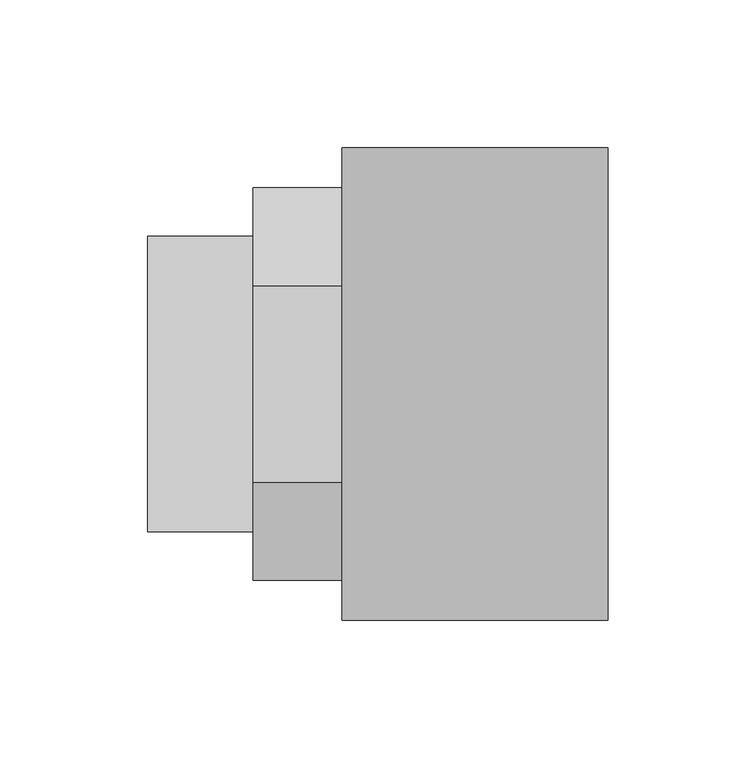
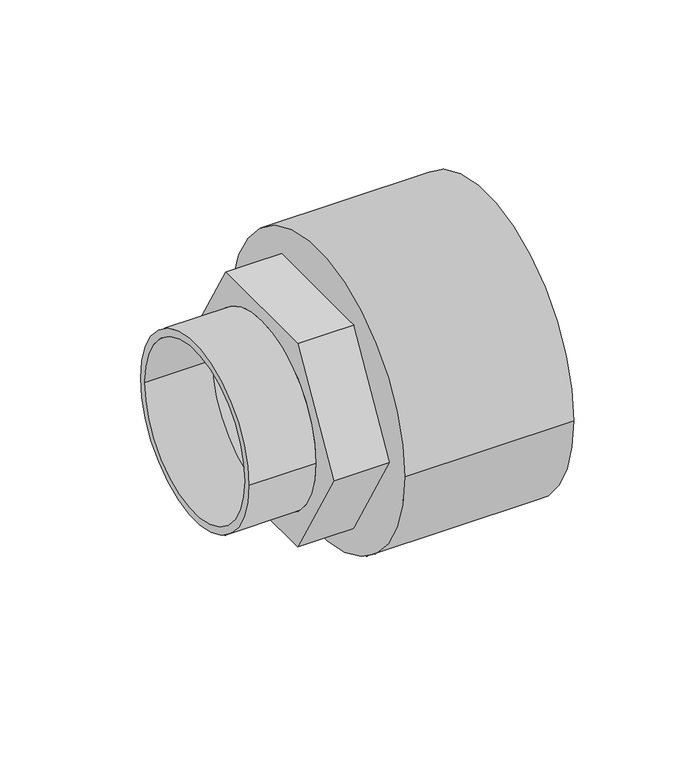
"""IFC4 building model written with IfcOpenShell, lengths in millimetres: pipe fitting geometry, NIRON RED termofusion roscado enlace rosca macho hexagonal : Estándar."""

from ifc_helpers import new_model, si_unit, point, frame, origin, origin_2d, place, context, project, spatial, polyline, circle_curve, trimmed, segment, composite_curve, outline, extrude, source, transform, mapped, element, save
from ifc_brep_helpers import plane_surface, revolved_surface, advanced_brep


def pipe_fitting_4a39e732(model_context):
    return source(origin(), model_context, "Body", "SolidModel", [
        extrude(outline(composite_curve([segment(trimmed(circle_curve(origin_2d(), 50.0), [point((-50.0, 0.0))], [point((50.0, 0.0))], False, "CARTESIAN"), True, "CONTINUOUS"), segment(trimmed(circle_curve(origin_2d(), 50.0), [point((50.0, 0.0))], [point((-50.0, 0.0))], False, "CARTESIAN"), True, "CONTINUOUS")], self_intersect=False), holes=[composite_curve([segment(trimmed(circle_curve(origin_2d(), 46.0), [point((-46.0, 0.0))], [point((46.0, 0.0))], True, "CARTESIAN"), True, "CONTINUOUS"), segment(trimmed(circle_curve(origin_2d(), 46.0), [point((46.0, 0.0))], [point((-46.0, 0.0))], True, "CARTESIAN"), True, "CONTINUOUS")], self_intersect=False)]), frame((-35.8, 0.0, 0.0), z_axis=(1.0, 0.0, 0.0), x_axis=(0.0, 1.0, 0.0)), (0.0, 0.0, 1.0), 35.8),
        extrude(outline(composite_curve([segment(trimmed(circle_curve(origin_2d(), 80.0), [point((80.0, 0.0))], [point((-80.0, 0.0))], False, "CARTESIAN"), True, "CONTINUOUS"), segment(trimmed(circle_curve(origin_2d(), 80.0), [point((-80.0, 0.0))], [point((80.0, 0.0))], False, "CARTESIAN"), True, "CONTINUOUS")], self_intersect=False)), frame((30.0, 0.0, 0.0), z_axis=(1.0, 0.0, 0.0), x_axis=(0.0, 1.0, 0.0)), (0.0, 0.0, 1.0), 90.2),
        advanced_brep(
        [(45.0, -33.1976405, -57.5), (45.0, 33.1976405, -57.5), (45.0, 66.395281, 0.0), (45.0, 33.1976405, 57.5), (45.0, -33.1976405, 57.5), (45.0, -66.395281, 0.0), (0.0, -33.1976405, -57.5), (0.0, -66.395281, 0.0), (0.0, -33.1976405, 57.5), (0.0, 33.1976405, 57.5), (0.0, 66.395281, 0.0), (0.0, 33.1976405, -57.5), (0.0, -50.0, 0.0), (0.0, 50.0, 0.0), (23.7, 50.0, 0.0), (23.7, -50.0, 0.0)],
        [
            (0, 1),
            (1, 2),
            (2, 3),
            (3, 4),
            (4, 5),
            (5, 0),
            (6, 7),
            (7, 8),
            (8, 9),
            (9, 10),
            (10, 11),
            (11, 6),
            (12, 13, circle_curve(frame((0.0, 0.0, 0.0), z_axis=(1.0, 0.0, 0.0), x_axis=(0.0, -1.0, 0.0)), 50.0)),
            (13, 12, circle_curve(frame((0.0, 0.0, 0.0), z_axis=(1.0, 0.0, 0.0), x_axis=(0.0, -1.0, 0.0)), 50.0)),
            (0, 6),
            (11, 1),
            (10, 2),
            (9, 3),
            (8, 4),
            (7, 5),
            (14, 15, circle_curve(frame((23.7, 0.0, 0.0), z_axis=(-1.0, 0.0, 0.0), x_axis=(0.0, -1.0, 0.0)), 50.0)),
            (15, 14, circle_curve(frame((23.7, 0.0, 0.0), z_axis=(-1.0, 0.0, 0.0), x_axis=(0.0, -1.0, 0.0)), 50.0)),
            (14, 13),
            (12, 15),
        ],
        [
            plane_surface(frame((45.0, 0.0, 0.0), z_axis=(1.0, 0.0, 0.0), x_axis=(0.0, 0.0, 1.0))),
            plane_surface(frame((0.0, 0.0, 0.0), z_axis=(-1.0, 0.0, 0.0), x_axis=(0.0, 0.0, 1.0))),
            plane_surface(frame((45.0, -33.1976405, -57.5), z_axis=(0.0, 0.0, -1.0), x_axis=(-1.0, 0.0, 0.0))),
            plane_surface(frame((45.0, 33.1976405, -57.5), z_axis=(0.0, 0.8660254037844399, -0.4999999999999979), x_axis=(-1.0, 0.0, 0.0))),
            plane_surface(frame((45.0, 66.395281, 0.0), z_axis=(0.0, 0.866025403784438, 0.500000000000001), x_axis=(-1.0, 0.0, 0.0))),
            plane_surface(frame((45.0, 33.1976405, 57.5), z_axis=(0.0, 0.0, 1.0), x_axis=(-1.0, 0.0, 0.0))),
            plane_surface(frame((45.0, -33.1976405, 57.5), z_axis=(0.0, -0.8660254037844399, 0.4999999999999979), x_axis=(-1.0, 0.0, 0.0))),
            plane_surface(frame((45.0, -66.395281, 0.0), z_axis=(0.0, -0.8660254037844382, -0.500000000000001), x_axis=(-1.0, 0.0, 0.0))),
            plane_surface(frame((23.7, -50.0, 0.0), z_axis=(-1.0, 0.0, 0.0), x_axis=(0.0, 0.0, -1.0))),
            revolved_surface(polyline([(0.0, -50.0, 0.0), (23.7, -50.0, 0.0)]), (23.7, 0.0, 0.0), (-1.0, 0.0, 0.0)),
        ],
        [
            (0, [[1, 2, 3, 4, 5, 6]]),
            (1, [[7, 8, 9, 10, 11, 12], [13, 14]]),
            (2, [[-1, 15, -12, 16]]),
            (3, [[-2, -16, -11, 17]]),
            (4, [[-3, -17, -10, 18]]),
            (5, [[-4, -18, -9, 19]]),
            (6, [[-5, -19, -8, 20]]),
            (7, [[-6, -20, -7, -15]]),
            (8, [[21, 22]]),
            (9, [[-21, 23, -13, 24]]),
            (9, [[-22, -24, -14, -23]]),
        ],
    ),
    ])


if __name__ == "__main__":
    model = new_model("IFC4")
    model_context = context("Model", 3, world=origin())
    ifc_project = project(units=[si_unit("LENGTHUNIT", "METRE", prefix="MILLI")], contexts=[model_context])
    site = spatial("IfcSite", under=ifc_project)
    building = spatial("IfcBuilding", under=site)
    placement = place(None, origin())
    pipe_fitting_shape = pipe_fitting_4a39e732(model_context)
    element("IfcPipeFitting", 1, ObjectType="NIRON RED termofusion roscado enlace rosca macho hexagonal : Estándar", at=placement, inside=building, context=model_context, shape_type="MappedRepresentation", body=[
        mapped(pipe_fitting_shape, transform((0.0, 0.0, 0.0), x_axis=(1.0, 0.0, 0.0), y_axis=(0.0, 1.0, 0.0), z_axis=(0.0, 0.0, 1.0))),
    ])
    save(model, "model.ifc")
